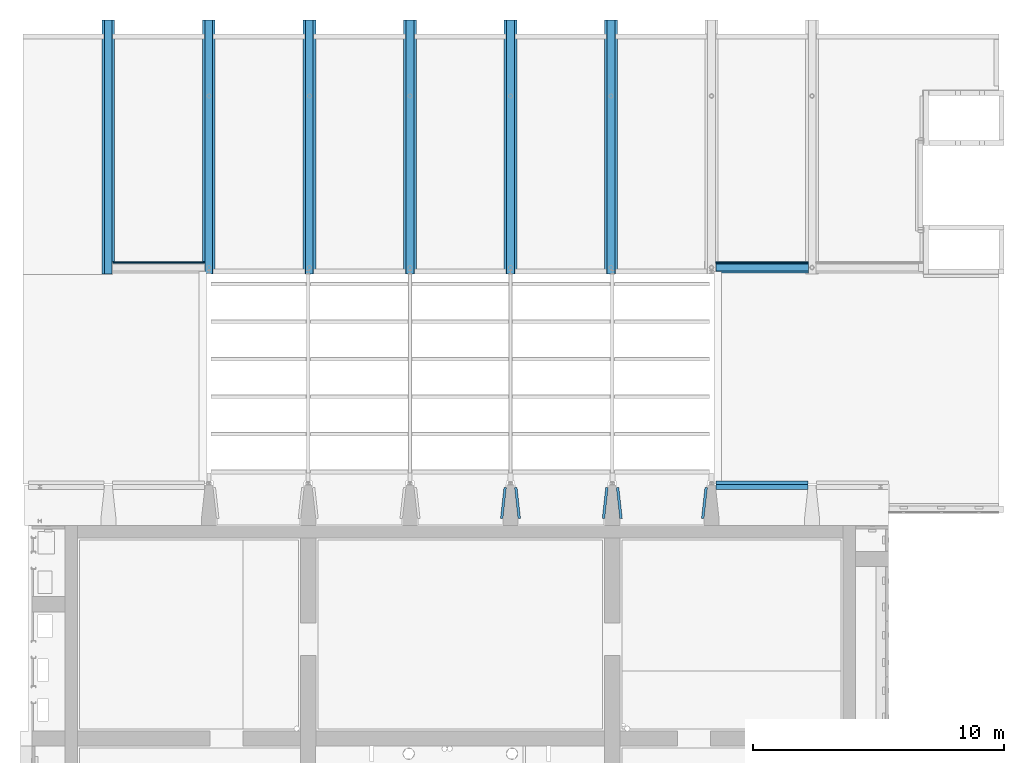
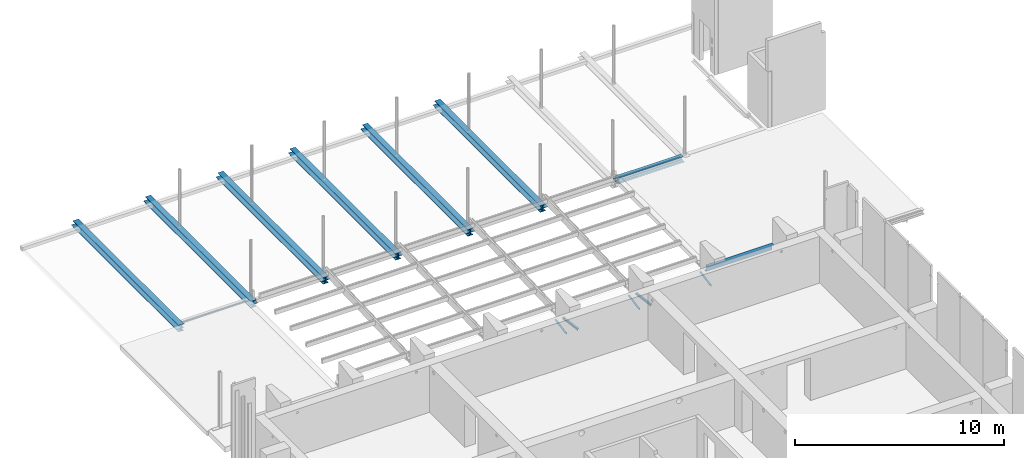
# One storey, part 13 of 31: 15 beams.
"""IFC2X3 building model written with IfcOpenShell, lengths in millimetres."""

from ifc_helpers import new_model, entity, si_unit, converted_unit, derived_unit, direction, frame, frame_2d, origin, origin_2d_with_axis, place, context, subcontext, project, spatial, polyline, circle_curve, parameter, trimmed, segment, composite_curve, rectangle, outline, extrude, source, transform, mapped, material, type_object, type_shapes, element, save


model = new_model("IFC2X3")

# Units and contexts
model_context = context("Model", 3, precision=0.01, world=origin(), true_north=direction((6.12303176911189e-17, 1.0)))
body_context = subcontext(model_context, "Body", "Model", "MODEL_VIEW")
ifc_project = project(units=[si_unit("LENGTHUNIT", "METRE", prefix="MILLI"), si_unit("AREAUNIT", "SQUARE_METRE"), si_unit("VOLUMEUNIT", "CUBIC_METRE"), converted_unit("PLANEANGLEUNIT", "DEGREE", entity("IfcRatioMeasure", 0.0174532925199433), si_unit("PLANEANGLEUNIT", "RADIAN"), dimensions=[0, 0, 0, 0, 0, 0, 0]), si_unit("MASSUNIT", "GRAM", prefix="KILO"), derived_unit("MASSDENSITYUNIT", [(si_unit("MASSUNIT", "GRAM", prefix="KILO"), 1), (si_unit("LENGTHUNIT", "METRE"), -3)]), si_unit("TIMEUNIT", "SECOND"), si_unit("FREQUENCYUNIT", "HERTZ"), si_unit("THERMODYNAMICTEMPERATUREUNIT", "DEGREE_CELSIUS"), derived_unit("THERMALTRANSMITTANCEUNIT", [(si_unit("MASSUNIT", "GRAM", prefix="KILO"), 1), (si_unit("THERMODYNAMICTEMPERATUREUNIT", "KELVIN"), -1), (si_unit("TIMEUNIT", "SECOND"), -3)]), derived_unit("VOLUMETRICFLOWRATEUNIT", [(si_unit("LENGTHUNIT", "METRE"), 3), (si_unit("TIMEUNIT", "SECOND"), -1)]), si_unit("ELECTRICCURRENTUNIT", "AMPERE"), si_unit("ELECTRICVOLTAGEUNIT", "VOLT"), si_unit("POWERUNIT", "WATT"), si_unit("FORCEUNIT", "NEWTON", prefix="KILO"), si_unit("ILLUMINANCEUNIT", "LUX"), si_unit("LUMINOUSFLUXUNIT", "LUMEN"), si_unit("LUMINOUSINTENSITYUNIT", "CANDELA"), derived_unit("USERDEFINED", [(si_unit("MASSUNIT", "GRAM", prefix="KILO"), -1), (si_unit("LENGTHUNIT", "METRE"), -2), (si_unit("TIMEUNIT", "SECOND"), 3), (si_unit("LUMINOUSFLUXUNIT", "LUMEN"), 1)]), derived_unit("LINEARVELOCITYUNIT", [(si_unit("LENGTHUNIT", "METRE"), 1), (si_unit("TIMEUNIT", "SECOND"), -1)]), si_unit("PRESSUREUNIT", "PASCAL"), derived_unit("USERDEFINED", [(si_unit("LENGTHUNIT", "METRE"), -2), (si_unit("MASSUNIT", "GRAM", prefix="KILO"), 1), (si_unit("TIMEUNIT", "SECOND"), -2)])], contexts=[model_context])

# Site, building, storey
site_placement = place(None, origin())
site = spatial("IfcSite", under=ifc_project, at=site_placement, Name="Default", CompositionType="ELEMENT")
building_placement = place(site_placement, origin())
building = spatial("IfcBuilding", under=site, at=building_placement, Name="niet gebruiken", CompositionType="ELEMENT")
storey_placement = place(building_placement, frame((0.0, 0.0, 12000.0)))
storey = spatial("IfcBuildingStorey", under=building, at=storey_placement, Name="03 derde verdieping", CompositionType="ELEMENT", Elevation=12000.0)

# Beams
ifc_material = material(Name="NLRS_h2_staal")
beam_type_1 = type_object("IfcBeamType", Name="ligger HEB 400", PredefinedType="BEAM", material=ifc_material)
shared_shape_1 = source(origin(), body_context, "Body", "SweptSolid", [
    extrude(outline(composite_curve([segment(polyline([(-150.0, -176.0), (-150.0, -200.0)]), True, "CONTINUOUS"), segment(polyline([(-150.0, -200.0), (150.0, -200.0)]), True, "CONTINUOUS"), segment(polyline([(150.0, -200.0), (150.0, -176.0)]), True, "CONTINUOUS"), segment(polyline([(150.0, -176.0), (33.7500000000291, -176.0)]), True, "CONTINUOUS"), segment(trimmed(circle_curve(frame_2d((33.7500000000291, -149.0), x_axis=(1.0, 0.0)), 27.0), [parameter(180.0)], [parameter(270.0)], True, "PARAMETER"), False, "CONTINUOUS"), segment(polyline([(6.75, -149.0), (6.75, 149.0)]), True, "CONTINUOUS"), segment(trimmed(circle_curve(frame_2d((33.7500000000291, 149.0), x_axis=(1.0, 0.0)), 27.0), [parameter(90.0000000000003)], [parameter(180.0)], True, "PARAMETER"), False, "CONTINUOUS"), segment(polyline([(33.7500000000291, 176.0), (150.0, 176.0)]), True, "CONTINUOUS"), segment(polyline([(150.0, 176.0), (150.0, 200.0)]), True, "CONTINUOUS"), segment(polyline([(150.0, 200.0), (-150.0, 200.0)]), True, "CONTINUOUS"), segment(polyline([(-150.0, 200.0), (-150.0, 176.0)]), True, "CONTINUOUS"), segment(polyline([(-150.0, 176.0), (-33.75, 176.0)]), True, "CONTINUOUS"), segment(trimmed(circle_curve(frame_2d((-33.75, 149.0), x_axis=(1.0, 0.0)), 27.0), [parameter(3.56222124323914e-13)], [parameter(90.0000000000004)], True, "PARAMETER"), False, "CONTINUOUS"), segment(polyline([(-6.7499999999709, 149.0), (-6.7499999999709, -149.0)]), True, "CONTINUOUS"), segment(trimmed(circle_curve(frame_2d((-33.75, -149.0), x_axis=(1.0, 0.0)), 27.0), [parameter(270.0)], [parameter(3.05333249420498e-13)], True, "PARAMETER"), False, "CONTINUOUS"), segment(polyline([(-33.75, -176.0), (-150.0, -176.0)]), True, "CONTINUOUS")], self_intersect=False)), frame((131750.0, 43250.0, 13140.0), z_axis=(0.0, -1.0, 0.0), x_axis=(-1.0, 0.0, 0.0)), (0.0, 0.0, -1.0), 10100.0000000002),
    extrude(rectangle(XDim=10100.0000000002, YDim=243.249999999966, at=frame_2d((0.0, -8.66151594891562e-12), x_axis=(1.0, 0.0))), frame((131878.375, 48300.0, 13120.0), z_axis=(0.0, 0.0, 1.0), x_axis=(0.0, -1.0, 0.0)), (0.0, 0.0, 1.0), 14.9999999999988),
    extrude(outline(polyline([(-6568.33333333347, -114.416666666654), (3036.66666666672, -114.416666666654), (3036.66666666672, -14.4166666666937), (3531.66666666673, -14.4166666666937), (3531.66666666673, 128.833333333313), (-6568.33333333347, 128.833333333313), (-6568.33333333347, -114.416666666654)])), frame((131614.416666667, 46781.6666666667, 13120.0), z_axis=(0.0, 0.0, 1.0), x_axis=(0.0, -1.0, 0.0)), (0.0, 0.0, 1.0), 14.9999999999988),
])
type_shapes(beam_type_1, [shared_shape_1])
beam_1_placement = place(storey_placement, frame((0.0, 0.0, -12000.0)))
element("IfcBeam", 1, at=beam_1_placement, inside=storey, type_object=beam_type_1, material=ifc_material, Name="NLRS_28.11_SF_WPB_stalen ligger HEB met stripstaal_gen:ligger HEB 400", ObjectType="ligger HEB 400", context=body_context, shape_type="MappedRepresentation", body=[
    mapped(shared_shape_1, transform((0.0, 0.0, 0.0), scale=1.0)),
])
beam_type_2 = type_object("IfcBeamType", Name="ligger HEB 400", PredefinedType="BEAM", material=ifc_material)
shared_shape_2 = source(origin(), body_context, "Body", "SweptSolid", [
    extrude(outline(composite_curve([segment(polyline([(176.0, -150.0), (200.0, -150.0)]), True, "CONTINUOUS"), segment(polyline([(200.0, -150.0), (200.0, 150.0)]), True, "CONTINUOUS"), segment(polyline([(200.0, 150.0), (176.0, 150.0)]), True, "CONTINUOUS"), segment(polyline([(176.0, 150.0), (176.0, 33.7500000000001)]), True, "CONTINUOUS"), segment(trimmed(circle_curve(frame_2d((149.0, 33.75), x_axis=(0.0, 1.0)), 27.0), [parameter(180.0)], [parameter(270.0)], True, "PARAMETER"), False, "CONTINUOUS"), segment(polyline([(149.0, 6.75000000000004), (-149.0, 6.75000000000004)]), True, "CONTINUOUS"), segment(trimmed(circle_curve(frame_2d((-149.0, 33.75), x_axis=(0.0, 1.0)), 27.0), [parameter(90.0000000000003)], [parameter(180.0)], True, "PARAMETER"), False, "CONTINUOUS"), segment(polyline([(-176.0, 33.7500000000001), (-176.0, 150.0)]), True, "CONTINUOUS"), segment(polyline([(-176.0, 150.0), (-200.0, 150.0)]), True, "CONTINUOUS"), segment(polyline([(-200.0, 150.0), (-200.0, -150.0)]), True, "CONTINUOUS"), segment(polyline([(-200.0, -150.0), (-176.0, -150.0)]), True, "CONTINUOUS"), segment(polyline([(-176.0, -150.0), (-176.0, -33.7499999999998)]), True, "CONTINUOUS"), segment(trimmed(circle_curve(frame_2d((-149.0, -33.7499999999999), x_axis=(0.0, 1.0)), 27.0), [parameter(3.56222124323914e-13)], [parameter(90.0000000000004)], True, "PARAMETER"), False, "CONTINUOUS"), segment(polyline([(-149.0, -6.74999999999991), (149.0, -6.74999999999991)]), True, "CONTINUOUS"), segment(trimmed(circle_curve(frame_2d((149.0, -33.7499999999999), x_axis=(0.0, 1.0)), 27.0), [parameter(270.0)], [parameter(3.05333249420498e-13)], True, "PARAMETER"), False, "CONTINUOUS"), segment(polyline([(176.0, -33.7499999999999), (176.0, -150.0)]), True, "CONTINUOUS")], self_intersect=False)), frame((-5050.0, 0.0, 0.0), z_axis=(1.0, 0.0, 0.0), x_axis=(0.0, 0.0, 1.0)), (0.0, 0.0, 1.0), 10100.0000000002),
    extrude(rectangle(XDim=10100.0000000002, YDim=243.249999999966, at=frame_2d((0.0, 7.105427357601e-15), x_axis=(1.0, 0.0))), frame((0.0, -128.374999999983, -20.0)), (0.0, 0.0, 1.0), 15.0),
    extrude(rectangle(XDim=10100.0000000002, YDim=243.249999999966, at=origin_2d_with_axis()), frame((0.0, 128.374999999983, -20.0)), (0.0, 0.0, 1.0), 15.0),
])
type_shapes(beam_type_2, [shared_shape_2])
for number, where, z_axis, x_axis, name in (
    (2, (135750.0, 48300.0, 1140.0), (0.0, 0.0, 1.0), (0.0, -1.0, 0.0), "NLRS_28.11_SF_WPB_stalen ligger HEB met stripstaal_gen:ligger HEB 400"),
    (3, (139750.0, 48300.0, 1140.0), (0.0, 0.0, 1.0), (0.0, -1.0, 0.0), "NLRS_28.11_SF_WPB_stalen ligger HEB met stripstaal_gen:ligger HEB 400"),
    (4, (143750.0, 48300.0, 1140.0), (0.0, 0.0, 1.0), (0.0, -1.0, 0.0), "NLRS_28.11_SF_WPB_stalen ligger HEB met stripstaal_gen:ligger HEB 400"),
    (5, (147750.0, 48300.0, 1140.0), (0.0, 0.0, 1.0), (0.0, -1.0, 0.0), "NLRS_28.11_SF_WPB_stalen ligger HEB met stripstaal_gen:ligger HEB 400"),
):
    element("IfcBeam", number, at=place(storey_placement, frame(where, z_axis=z_axis, x_axis=x_axis)), inside=storey, type_object=beam_type_2, material=ifc_material, Name=name, ObjectType="ligger HEB 400", context=body_context, shape_type="MappedRepresentation", body=[
        mapped(shared_shape_2, transform((0.0, 0.0, 0.0), scale=1.0)),
    ])
beam_type_3 = type_object("IfcBeamType", Name="ligger HEB 400", PredefinedType="BEAM", material=ifc_material)
shared_shape_3 = source(origin(), body_context, "Body", "SweptSolid", [
    extrude(outline(composite_curve([segment(polyline([(-150.0, -176.0), (-150.0, -200.0)]), True, "CONTINUOUS"), segment(polyline([(-150.0, -200.0), (150.0, -200.0)]), True, "CONTINUOUS"), segment(polyline([(150.0, -200.0), (150.0, -176.0)]), True, "CONTINUOUS"), segment(polyline([(150.0, -176.0), (33.75, -176.0)]), True, "CONTINUOUS"), segment(trimmed(circle_curve(frame_2d((33.75, -149.0), x_axis=(1.0, 0.0)), 27.0), [parameter(180.0)], [parameter(270.0)], True, "PARAMETER"), False, "CONTINUOUS"), segment(polyline([(6.74999999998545, -149.0), (6.74999999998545, 149.0)]), True, "CONTINUOUS"), segment(trimmed(circle_curve(frame_2d((33.75, 149.0), x_axis=(1.0, 0.0)), 27.0), [parameter(90.0000000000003)], [parameter(180.0)], True, "PARAMETER"), False, "CONTINUOUS"), segment(polyline([(33.75, 176.0), (150.0, 176.0)]), True, "CONTINUOUS"), segment(polyline([(150.0, 176.0), (150.0, 200.0)]), True, "CONTINUOUS"), segment(polyline([(150.0, 200.0), (-150.0, 200.0)]), True, "CONTINUOUS"), segment(polyline([(-150.0, 200.0), (-150.0, 176.0)]), True, "CONTINUOUS"), segment(polyline([(-150.0, 176.0), (-33.7500000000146, 176.0)]), True, "CONTINUOUS"), segment(trimmed(circle_curve(frame_2d((-33.7500000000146, 149.0), x_axis=(1.0, 0.0)), 27.0), [parameter(3.56222124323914e-13)], [parameter(90.0000000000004)], True, "PARAMETER"), False, "CONTINUOUS"), segment(polyline([(-6.75, 149.0), (-6.75, -149.0)]), True, "CONTINUOUS"), segment(trimmed(circle_curve(frame_2d((-33.7500000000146, -149.0), x_axis=(1.0, 0.0)), 27.0), [parameter(270.0)], [parameter(3.05333249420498e-13)], True, "PARAMETER"), False, "CONTINUOUS"), segment(polyline([(-33.7500000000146, -176.0), (-150.0, -176.0)]), True, "CONTINUOUS")], self_intersect=False)), frame((127750.0, 43250.0, 13140.0), z_axis=(0.0, -1.0, 0.0), x_axis=(-1.0, 0.0, 0.0)), (0.0, 0.0, -1.0), 10100.0000000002),
    extrude(outline(polyline([(-6568.33333333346, -128.833333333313), (3531.66666666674, -128.833333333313), (3531.66666666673, 14.4166666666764), (3036.66666666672, 14.4166666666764), (3036.66666666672, 114.416666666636), (-6568.33333333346, 114.416666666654), (-6568.33333333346, -128.833333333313)])), frame((127885.583333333, 46781.6666666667, 13120.0), z_axis=(0.0, 0.0, 1.0), x_axis=(0.0, -1.0, 0.0)), (0.0, 0.0, 1.0), 14.9999999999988),
    extrude(rectangle(XDim=10100.0000000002, YDim=243.249999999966, at=frame_2d((-4.09272615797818e-12, 0.0), x_axis=(1.0, 0.0))), frame((127621.625, 48300.0, 13120.0), z_axis=(0.0, 0.0, 1.0), x_axis=(0.0, -1.0, 0.0)), (0.0, 0.0, 1.0), 14.9999999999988),
])
type_shapes(beam_type_3, [shared_shape_3])
beam_2_placement = place(storey_placement, frame((0.0, 0.0, -12000.0)))
element("IfcBeam", 6, at=beam_2_placement, inside=storey, type_object=beam_type_3, material=ifc_material, Name="NLRS_28.11_SF_WPB_stalen ligger HEB met stripstaal_gen:ligger HEB 400", ObjectType="ligger HEB 400", context=body_context, shape_type="MappedRepresentation", body=[
    mapped(shared_shape_3, transform((0.0, 0.0, 0.0), scale=1.0)),
])
beam_type_4 = type_object("IfcBeamType", Name="NLRS_28.11_SF_WPB_stalen ligger Z-profiel_gen_BSc:ligger Z-profiel 200/15x355/15x150/15", PredefinedType="BEAM")
beam_3_placement = place(storey_placement, frame((155580.0, 34857.5, 1257.5), z_axis=(0.0, 0.0, 1.0), x_axis=(-1.0, 0.0, 0.0)))
element("IfcBeam", 7, at=beam_3_placement, inside=storey, type_object=beam_type_4, material=ifc_material, Name="NLRS_28.11_SF_WPB_stalen ligger Z-profiel_gen_BSc:ligger Z-profiel 200/15x355/15x150/15", ObjectType="NLRS_28.11_SF_WPB_stalen ligger Z-profiel_gen_BSc:ligger Z-profiel 200/15x355/15x150/15", context=body_context, shape_type="SweptSolid", body=[
    extrude(outline(polyline([(177.500000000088, -155.0), (192.500000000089, -155.0), (192.500000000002, -5.0), (-177.5, -5.0), (-177.500000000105, 180.0), (-192.500000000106, 180.0), (-192.49999999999, -20.0), (177.50000000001, -20.0), (177.500000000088, -155.0)])), frame((0.0, 12.5000000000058, 0.0), z_axis=(1.0, 0.0, 0.0), x_axis=(0.0, 0.0, -1.0)), (0.0, 0.0, 1.0), 3659.99999999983),
])
beam_type_5 = type_object("IfcBeamType", Name="NLRS_28.11_SF_WPB_stalen ligger hoekprofiel gelijkzijdig_gen:ligger gelijzijdig hoekprofiel LEQU_50x50x5", PredefinedType="BEAM")
beam_4_placement = place(storey_placement, frame((131580.0, 43725.0, 1080.0), z_axis=(0.0, 0.0, 1.0), x_axis=(-1.0, 0.0, 0.0)))
element("IfcBeam", 8, at=beam_4_placement, inside=storey, type_object=beam_type_5, material=ifc_material, Name="NLRS_28.11_SF_WPB_stalen ligger hoekprofiel gelijkzijdig_gen:ligger gelijzijdig hoekprofiel LEQU_50x50x5", ObjectType="NLRS_28.11_SF_WPB_stalen ligger hoekprofiel gelijkzijdig_gen:ligger gelijzijdig hoekprofiel LEQU_50x50x5", context=body_context, shape_type="SweptSolid", body=[
    extrude(outline(composite_curve([segment(polyline([(-18.8888888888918, -18.8888888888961), (31.1111111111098, -18.8888888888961)]), True, "CONTINUOUS"), segment(polyline([(31.1111111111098, -18.8888888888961), (31.1111111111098, -17.3888888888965)]), True, "CONTINUOUS"), segment(trimmed(circle_curve(frame_2d((27.6111111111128, -17.3888888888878), x_axis=(1.0, 0.0)), 3.4999999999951), [parameter(0.0)], [parameter(90.000000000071)], True, "PARAMETER"), True, "CONTINUOUS"), segment(polyline([(27.6111111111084, -13.8888888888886), (-6.88888888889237, -13.8888888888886)]), True, "CONTINUOUS"), segment(trimmed(circle_curve(frame_2d((-6.88888888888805, -6.88888888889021), x_axis=(0.0, -1.0)), 7.00000000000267), [parameter(270.000000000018)], [parameter(0.0)], True, "PARAMETER"), False, "CONTINUOUS"), segment(polyline([(-13.8888888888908, -6.88888888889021), (-13.8888888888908, 27.6111111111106)]), True, "CONTINUOUS"), segment(trimmed(circle_curve(frame_2d((-17.3888888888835, 27.6111111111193), x_axis=(1.0, 0.0)), 3.49999999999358), [parameter(0.0)], [parameter(90.0000000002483)], True, "PARAMETER"), True, "CONTINUOUS"), segment(polyline([(-17.38888888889, 31.1111111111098), (-18.8888888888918, 31.1111111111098)]), True, "CONTINUOUS"), segment(polyline([(-18.8888888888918, 31.1111111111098), (-18.8888888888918, -18.8888888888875)]), True, "CONTINUOUS")], self_intersect=False)), frame((0.0, 18.8888888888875, 31.1111111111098), z_axis=(1.0, 0.0, 0.0), x_axis=(0.0, 0.0, -1.0)), (0.0, 0.0, 1.0), 3660.00000000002),
])
beam_5_placement = place(storey_placement, frame((155600.0, 43700.0, 1115.96000000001), z_axis=(0.0, 0.0, 1.0), x_axis=(-1.0, 0.0, 0.0)))
element("IfcBeam", 9, at=beam_5_placement, inside=storey, type_object=beam_type_5, material=ifc_material, Name="NLRS_28.11_SF_WPB_stalen ligger hoekprofiel gelijkzijdig_gen:ligger gelijzijdig hoekprofiel LEQU_50x50x5", ObjectType="NLRS_28.11_SF_WPB_stalen ligger hoekprofiel gelijkzijdig_gen:ligger gelijzijdig hoekprofiel LEQU_50x50x5", context=body_context, shape_type="SweptSolid", body=[
    extrude(outline(composite_curve([segment(polyline([(-18.8888888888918, -18.8888888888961), (31.1111111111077, -18.8888888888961)]), True, "CONTINUOUS"), segment(polyline([(31.1111111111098, -18.8888888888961), (31.1111111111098, -17.3888888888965)]), True, "CONTINUOUS"), segment(trimmed(circle_curve(frame_2d((27.6111111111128, -17.3888888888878), x_axis=(1.0, 0.0)), 3.4999999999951), [parameter(0.0)], [parameter(90.000000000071)], True, "PARAMETER"), True, "CONTINUOUS"), segment(polyline([(27.6111111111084, -13.8888888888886), (-6.88888888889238, -13.8888888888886)]), True, "CONTINUOUS"), segment(trimmed(circle_curve(frame_2d((-6.88888888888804, -6.88888888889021), x_axis=(0.0, -1.0)), 7.00000000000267), [parameter(270.000000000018)], [parameter(0.0)], True, "PARAMETER"), False, "CONTINUOUS"), segment(polyline([(-13.8888888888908, -6.88888888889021), (-13.8888888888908, 27.6111111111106)]), True, "CONTINUOUS"), segment(trimmed(circle_curve(frame_2d((-17.3888888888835, 27.6111111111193), x_axis=(1.0, 0.0)), 3.49999999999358), [parameter(0.0)], [parameter(90.0000000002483)], True, "PARAMETER"), True, "CONTINUOUS"), segment(polyline([(-17.38888888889, 31.1111111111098), (-18.8888888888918, 31.1111111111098)]), True, "CONTINUOUS"), segment(polyline([(-18.8888888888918, 31.1111111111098), (-18.8888888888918, -18.8888888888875)]), True, "CONTINUOUS")], self_intersect=False)), frame((0.0, -6.11111111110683, -4.84888888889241), z_axis=(1.0, 0.0, 0.0), x_axis=(0.0, 0.0, -1.0)), (0.0, 0.0, 1.0), 3680.0),
])
beam_type_6 = type_object("IfcBeamType", Name="NLRS_28.11_SF_WPB_stalen ligger hoekprofiel gelijkzijdig_gen:ligger gelijzijdig hoekprofiel LEQU_100x100x10", PredefinedType="BEAM")
beam_6_placement = place(storey_placement, frame((144012.087998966, 34746.746523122, 1270.0), z_axis=(0.0, 0.0, 1.0), x_axis=(0.110431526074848, -0.993883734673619, 0.0)))
element("IfcBeam", 10, at=beam_6_placement, inside=storey, type_object=beam_type_6, material=ifc_material, Name="NLRS_28.11_SF_WPB_stalen ligger hoekprofiel gelijkzijdig_gen:ligger gelijzijdig hoekprofiel LEQU_100x100x10", ObjectType="NLRS_28.11_SF_WPB_stalen ligger hoekprofiel gelijkzijdig_gen:ligger gelijzijdig hoekprofiel LEQU_100x100x10", context=body_context, shape_type="SweptSolid", body=[
    extrude(outline(composite_curve([segment(polyline([(-37.7777777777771, -37.7777777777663), (62.222222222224, -37.7777777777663)]), True, "CONTINUOUS"), segment(polyline([(62.2222222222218, -37.7777777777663), (62.2222222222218, -33.7777777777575)]), True, "CONTINUOUS"), segment(trimmed(circle_curve(frame_2d((56.2222222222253, -33.7777777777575), x_axis=(1.0, 0.0)), 5.99999999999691), [parameter(0.0)], [parameter(90.0000000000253)], True, "PARAMETER"), True, "CONTINUOUS"), segment(polyline([(56.2222222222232, -27.7777777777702), (-15.7777777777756, -27.7777777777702)]), True, "CONTINUOUS"), segment(trimmed(circle_curve(frame_2d((-15.7777777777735, -15.777777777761), x_axis=(0.0, -1.0)), 12.000000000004), [parameter(270.000000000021)], [parameter(0.0)], True, "PARAMETER"), False, "CONTINUOUS"), segment(polyline([(-27.7777777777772, -15.777777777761), (-27.7777777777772, 56.2222222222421)]), True, "CONTINUOUS"), segment(trimmed(circle_curve(frame_2d((-33.7777777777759, 56.2222222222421), x_axis=(1.0, 0.0)), 5.99999999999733), [parameter(0.0)], [parameter(90.0000000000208)], True, "PARAMETER"), True, "CONTINUOUS"), segment(polyline([(-33.777777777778, 62.2222222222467), (-37.7777777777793, 62.2222222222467)]), True, "CONTINUOUS"), segment(polyline([(-37.7777777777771, 62.2222222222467), (-37.7777777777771, -37.7777777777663)]), True, "CONTINUOUS")], self_intersect=False)), frame((0.0, -62.2222222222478, -37.7777777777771), z_axis=(1.0, 0.0, 0.0), x_axis=(0.0, 0.0, -1.0)), (0.0, 0.0, 1.0), 1235.00000000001),
])
beam_7_placement = place(storey_placement, frame((148062.087998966, 34746.746523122, 1270.0), z_axis=(0.0, 0.0, 1.0), x_axis=(0.110431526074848, -0.993883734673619, 0.0)))
element("IfcBeam", 11, at=beam_7_placement, inside=storey, type_object=beam_type_6, material=ifc_material, Name="NLRS_28.11_SF_WPB_stalen ligger hoekprofiel gelijkzijdig_gen:ligger gelijzijdig hoekprofiel LEQU_100x100x10", ObjectType="NLRS_28.11_SF_WPB_stalen ligger hoekprofiel gelijkzijdig_gen:ligger gelijzijdig hoekprofiel LEQU_100x100x10", context=body_context, shape_type="SweptSolid", body=[
    extrude(outline(composite_curve([segment(polyline([(-37.7777777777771, -37.777777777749), (62.222222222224, -37.777777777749)]), True, "CONTINUOUS"), segment(polyline([(62.2222222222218, -37.777777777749), (62.2222222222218, -33.7777777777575)]), True, "CONTINUOUS"), segment(trimmed(circle_curve(frame_2d((56.2222222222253, -33.7777777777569), x_axis=(1.0, 0.0)), 5.99999999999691), [parameter(0.0)], [parameter(90.0000000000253)], True, "PARAMETER"), True, "CONTINUOUS"), segment(polyline([(56.2222222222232, -27.7777777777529), (-15.7777777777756, -27.7777777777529)]), True, "CONTINUOUS"), segment(trimmed(circle_curve(frame_2d((-15.7777777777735, -15.777777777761), x_axis=(0.0, -1.0)), 12.000000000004), [parameter(270.000000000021)], [parameter(0.0)], True, "PARAMETER"), False, "CONTINUOUS"), segment(polyline([(-27.7777777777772, -15.777777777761), (-27.7777777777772, 56.2222222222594)]), True, "CONTINUOUS"), segment(trimmed(circle_curve(frame_2d((-33.7777777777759, 56.2222222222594), x_axis=(1.0, 0.0)), 5.99999999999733), [parameter(0.0)], [parameter(90.0000000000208)], True, "PARAMETER"), True, "CONTINUOUS"), segment(polyline([(-33.777777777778, 62.2222222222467), (-37.7777777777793, 62.2222222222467)]), True, "CONTINUOUS"), segment(polyline([(-37.7777777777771, 62.2222222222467), (-37.7777777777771, -37.777777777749)]), True, "CONTINUOUS")], self_intersect=False)), frame((0.0, -62.2222222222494, -37.7777777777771), z_axis=(1.0, 0.0, 0.0), x_axis=(0.0, 0.0, -1.0)), (0.0, 0.0, 1.0), 1235.0),
])
beam_8_placement = place(storey_placement, frame((143487.912001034, 34746.746523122, 1270.0), z_axis=(0.0, 0.0, 1.0), x_axis=(-0.110431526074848, -0.993883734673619, 0.0)))
element("IfcBeam", 12, at=beam_8_placement, inside=storey, type_object=beam_type_6, material=ifc_material, Name="NLRS_28.11_SF_WPB_stalen ligger hoekprofiel gelijkzijdig_gen:ligger gelijzijdig hoekprofiel LEQU_100x100x10", ObjectType="NLRS_28.11_SF_WPB_stalen ligger hoekprofiel gelijkzijdig_gen:ligger gelijzijdig hoekprofiel LEQU_100x100x10", context=body_context, shape_type="SweptSolid", body=[
    extrude(outline(composite_curve([segment(polyline([(-37.7777777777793, -62.222222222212), (-33.777777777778, -62.222222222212)]), True, "CONTINUOUS"), segment(trimmed(circle_curve(frame_2d((-33.7777777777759, -56.2222222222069), x_axis=(0.0, -1.0)), 5.99999999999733), [parameter(0.0)], [parameter(90.0000000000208)], True, "PARAMETER"), True, "CONTINUOUS"), segment(polyline([(-27.7777777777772, -56.2222222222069), (-27.7777777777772, 15.7777777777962)]), True, "CONTINUOUS"), segment(trimmed(circle_curve(frame_2d((-15.7777777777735, 15.7777777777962), x_axis=(-1.0, 0.0)), 12.000000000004), [parameter(270.000000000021)], [parameter(0.0)], True, "PARAMETER"), False, "CONTINUOUS"), segment(polyline([(-15.7777777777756, 27.7777777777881), (56.2222222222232, 27.7777777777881)]), True, "CONTINUOUS"), segment(trimmed(circle_curve(frame_2d((56.2222222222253, 33.7777777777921), x_axis=(0.0, -1.0)), 5.99999999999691), [parameter(0.0)], [parameter(90.0000000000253)], True, "PARAMETER"), True, "CONTINUOUS"), segment(polyline([(62.2222222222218, 33.7777777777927), (62.2222222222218, 37.7777777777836)]), True, "CONTINUOUS"), segment(polyline([(62.222222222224, 37.7777777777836), (-37.7777777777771, 37.7777777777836)]), True, "CONTINUOUS"), segment(polyline([(-37.7777777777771, 37.7777777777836), (-37.7777777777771, -62.222222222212)]), True, "CONTINUOUS")], self_intersect=False)), frame((0.0, 62.2222222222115, -37.7777777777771), z_axis=(1.0, 0.0, 0.0), x_axis=(0.0, 0.0, -1.0)), (0.0, 0.0, 1.0), 1235.00000000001),
])
beam_9_placement = place(storey_placement, frame((147537.912001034, 34746.746523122, 1270.0), z_axis=(0.0, 0.0, 1.0), x_axis=(-0.110431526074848, -0.993883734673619, 0.0)))
element("IfcBeam", 13, at=beam_9_placement, inside=storey, type_object=beam_type_6, material=ifc_material, Name="NLRS_28.11_SF_WPB_stalen ligger hoekprofiel gelijkzijdig_gen:ligger gelijzijdig hoekprofiel LEQU_100x100x10", ObjectType="NLRS_28.11_SF_WPB_stalen ligger hoekprofiel gelijkzijdig_gen:ligger gelijzijdig hoekprofiel LEQU_100x100x10", context=body_context, shape_type="SweptSolid", body=[
    extrude(outline(composite_curve([segment(polyline([(-37.7777777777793, -62.2222222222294), (-33.777777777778, -62.2222222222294)]), True, "CONTINUOUS"), segment(trimmed(circle_curve(frame_2d((-33.7777777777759, -56.2222222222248), x_axis=(0.0, -1.0)), 5.99999999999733), [parameter(0.0)], [parameter(90.0000000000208)], True, "PARAMETER"), True, "CONTINUOUS"), segment(polyline([(-27.7777777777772, -56.2222222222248), (-27.7777777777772, 15.7777777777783)]), True, "CONTINUOUS"), segment(trimmed(circle_curve(frame_2d((-15.7777777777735, 15.7777777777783), x_axis=(-1.0, 0.0)), 12.000000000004), [parameter(270.000000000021)], [parameter(0.0)], True, "PARAMETER"), False, "CONTINUOUS"), segment(polyline([(-15.7777777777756, 27.7777777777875), (56.2222222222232, 27.7777777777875)]), True, "CONTINUOUS"), segment(trimmed(circle_curve(frame_2d((56.2222222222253, 33.7777777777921), x_axis=(0.0, -1.0)), 5.99999999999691), [parameter(0.0)], [parameter(90.0000000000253)], True, "PARAMETER"), True, "CONTINUOUS"), segment(polyline([(62.2222222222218, 33.7777777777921), (62.2222222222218, 37.7777777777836)]), True, "CONTINUOUS"), segment(polyline([(62.222222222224, 37.7777777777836), (-37.7777777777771, 37.7777777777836)]), True, "CONTINUOUS"), segment(polyline([(-37.7777777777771, 37.7777777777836), (-37.7777777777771, -62.2222222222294)]), True, "CONTINUOUS")], self_intersect=False)), frame((0.0, 62.2222222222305, -37.7777777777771), z_axis=(1.0, 0.0, 0.0), x_axis=(0.0, 0.0, -1.0)), (0.0, 0.0, 1.0), 1235.00000000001),
])
beam_10_placement = place(storey_placement, frame((151487.912001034, 34746.746523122, 1270.0), z_axis=(0.0, 0.0, 1.0), x_axis=(-0.110431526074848, -0.993883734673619, 0.0)))
element("IfcBeam", 14, at=beam_10_placement, inside=storey, type_object=beam_type_6, material=ifc_material, Name="NLRS_28.11_SF_WPB_stalen ligger hoekprofiel gelijkzijdig_gen:ligger gelijzijdig hoekprofiel LEQU_100x100x10", ObjectType="NLRS_28.11_SF_WPB_stalen ligger hoekprofiel gelijkzijdig_gen:ligger gelijzijdig hoekprofiel LEQU_100x100x10", context=body_context, shape_type="SweptSolid", body=[
    extrude(outline(composite_curve([segment(polyline([(-37.7777777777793, -62.2222222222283), (-33.777777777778, -62.2222222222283)]), True, "CONTINUOUS"), segment(trimmed(circle_curve(frame_2d((-33.7777777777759, -56.2222222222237), x_axis=(0.0, -1.0)), 5.99999999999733), [parameter(0.0)], [parameter(90.0000000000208)], True, "PARAMETER"), True, "CONTINUOUS"), segment(polyline([(-27.7777777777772, -56.2222222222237), (-27.7777777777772, 15.7777777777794)]), True, "CONTINUOUS"), segment(trimmed(circle_curve(frame_2d((-15.7777777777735, 15.7777777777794), x_axis=(-1.0, 0.0)), 12.000000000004), [parameter(270.000000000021)], [parameter(0.0)], True, "PARAMETER"), False, "CONTINUOUS"), segment(polyline([(-15.7777777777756, 27.7777777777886), (56.2222222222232, 27.7777777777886)]), True, "CONTINUOUS"), segment(trimmed(circle_curve(frame_2d((56.2222222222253, 33.7777777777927), x_axis=(0.0, -1.0)), 5.99999999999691), [parameter(0.0)], [parameter(90.0000000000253)], True, "PARAMETER"), True, "CONTINUOUS"), segment(polyline([(62.2222222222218, 33.7777777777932), (62.2222222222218, 37.7777777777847)]), True, "CONTINUOUS"), segment(polyline([(62.222222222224, 37.7777777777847), (-37.7777777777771, 37.7777777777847)]), True, "CONTINUOUS"), segment(polyline([(-37.7777777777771, 37.7777777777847), (-37.7777777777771, -62.2222222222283)]), True, "CONTINUOUS")], self_intersect=False)), frame((0.0, 62.222222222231, -37.7777777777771), z_axis=(1.0, 0.0, 0.0), x_axis=(0.0, 0.0, -1.0)), (0.0, 0.0, 1.0), 1235.00000000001),
])
beam_type_7 = type_object("IfcBeamType", Name="ligger SFB250 HE260A+450x12", PredefinedType="BEAM", material=ifc_material)
shared_shape_4 = source(origin(), body_context, "Body", "SweptSolid", [
    extrude(rectangle(XDim=3680.0, YDim=450.000000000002, at=origin_2d_with_axis()), frame((153760.0, 43500.0, 13068.0), z_axis=(0.0, 0.0, 1.0), x_axis=(-1.0, 0.0, 0.0)), (0.0, 0.0, 1.0), 11.9999999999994),
    extrude(outline(composite_curve([segment(polyline([(-130.0, -112.5), (-130.0, -125.0)]), True, "CONTINUOUS"), segment(polyline([(-130.0, -125.0), (130.0, -125.0)]), True, "CONTINUOUS"), segment(polyline([(130.0, -125.0), (130.0, -112.5)]), True, "CONTINUOUS"), segment(polyline([(130.0, -112.5), (27.7499999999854, -112.5)]), True, "CONTINUOUS"), segment(trimmed(circle_curve(frame_2d((27.7499999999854, -88.4999999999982), x_axis=(1.0, 0.0)), 24.0), [parameter(180.000000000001)], [parameter(270.0)], True, "PARAMETER"), False, "CONTINUOUS"), segment(polyline([(3.74999999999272, -88.4999999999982), (3.74999999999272, 88.5000000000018)]), True, "CONTINUOUS"), segment(trimmed(circle_curve(frame_2d((27.7499999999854, 88.5), x_axis=(1.0, 0.0)), 24.0), [parameter(90.0000000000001)], [parameter(180.0)], True, "PARAMETER"), False, "CONTINUOUS"), segment(polyline([(27.7499999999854, 112.500000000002), (130.0, 112.500000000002)]), True, "CONTINUOUS"), segment(polyline([(130.0, 112.500000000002), (130.0, 125.0)]), True, "CONTINUOUS"), segment(polyline([(130.0, 125.0), (-130.0, 125.0)]), True, "CONTINUOUS"), segment(polyline([(-130.0, 125.0), (-130.0, 112.500000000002)]), True, "CONTINUOUS"), segment(polyline([(-130.0, 112.500000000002), (-27.7500000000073, 112.500000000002)]), True, "CONTINUOUS"), segment(trimmed(circle_curve(frame_2d((-27.7500000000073, 88.5), x_axis=(1.0, 0.0)), 24.0), [parameter(3.56222124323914e-13)], [parameter(90.0000000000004)], True, "PARAMETER"), False, "CONTINUOUS"), segment(polyline([(-3.75000000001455, 88.5), (-3.75000000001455, -88.4999999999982)]), True, "CONTINUOUS"), segment(trimmed(circle_curve(frame_2d((-27.7500000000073, -88.4999999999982), x_axis=(1.0, 0.0)), 24.0), [parameter(270.0)], [parameter(3.56222124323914e-13)], True, "PARAMETER"), False, "CONTINUOUS"), segment(polyline([(-27.7500000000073, -112.5), (-130.0, -112.5)]), True, "CONTINUOUS")], self_intersect=False)), frame((151920.0, 43500.0, 13205.0), z_axis=(-1.0, 0.0, 0.0), x_axis=(0.0, 1.0, 0.0)), (0.0, 0.0, -1.0), 3680.0),
])
type_shapes(beam_type_7, [shared_shape_4])
beam_11_placement = place(storey_placement, frame((0.0, 0.0, -12000.0)))
element("IfcBeam", 15, at=beam_11_placement, inside=storey, type_object=beam_type_7, material=ifc_material, Name="NLRS_28.11_SF_WPB_stalen ligger SFB_gen:ligger SFB250 HE260A+450x12", ObjectType="ligger SFB250 HE260A+450x12", context=body_context, shape_type="MappedRepresentation", body=[
    mapped(shared_shape_4, transform((0.0, 0.0, 0.0), scale=1.0)),
])

save(model, "model.ifc")
